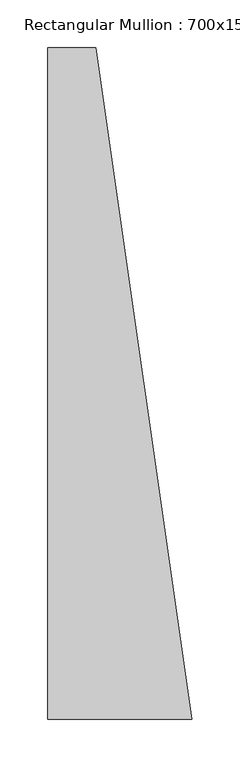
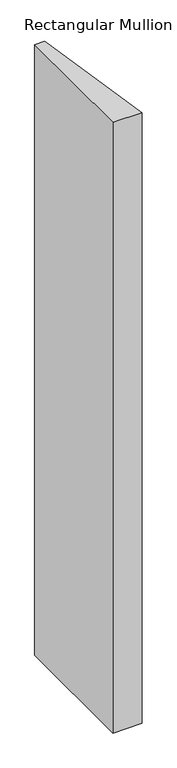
"""IFC4 building model written with IfcOpenShell, lengths in millimetres: member geometry, Rectangular Mullion : 700x150x50mm."""

from ifc_helpers import new_model, si_unit, frame, origin, place, context, project, spatial, polyline, outline, extrude, source, transform, mapped, element, save


def rectangular_mullion_700x150x50mm_0553c864(model_context):
    return source(origin(), model_context, "Body", "SweptSolid", [
        extrude(outline(polyline([(-150.0, -350.0), (-150.0, 350.0), (-100.0, 350.0), (0.0, -350.0), (-150.0, -350.0)])), frame((0.0, 0.0, -3333.3333326), z_axis=(0.0, 0.0, 1.0), x_axis=(1.0, 0.0, 0.0)), (0.0, 0.0, 1.0), 3333.3333326),
    ])


if __name__ == "__main__":
    model = new_model("IFC4")
    model_context = context("Model", 3, world=origin())
    ifc_project = project(units=[si_unit("LENGTHUNIT", "METRE", prefix="MILLI")], contexts=[model_context])
    site = spatial("IfcSite", under=ifc_project)
    building = spatial("IfcBuilding", under=site)
    placement = place(None, origin())
    rectangular_mullion_700x150x50mm_shape = rectangular_mullion_700x150x50mm_0553c864(model_context)
    element("IfcMember", 1, ObjectType="Rectangular Mullion : 700x150x50mm", at=placement, inside=building, context=model_context, shape_type="MappedRepresentation", body=[
        mapped(rectangular_mullion_700x150x50mm_shape, transform((0.0, 0.0, 0.0), x_axis=(1.0, 0.0, 0.0), y_axis=(0.0, 1.0, 0.0), z_axis=(0.0, 0.0, 1.0))),
    ])
    save(model, "model.ifc")
